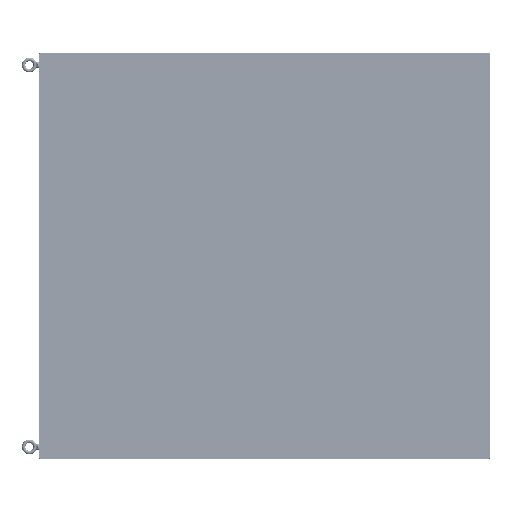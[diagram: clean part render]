
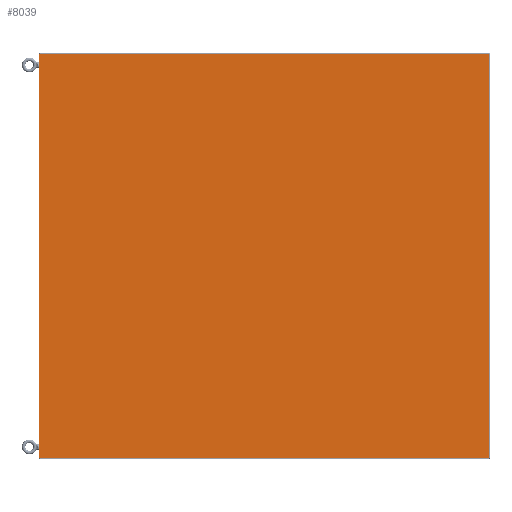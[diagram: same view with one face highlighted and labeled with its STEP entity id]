
A CAD part, front view. The second image highlights one B-rep face of the part: STEP entity #8039.
In plain terms, the highlighted planar face has unit normal (0, -1, 0).
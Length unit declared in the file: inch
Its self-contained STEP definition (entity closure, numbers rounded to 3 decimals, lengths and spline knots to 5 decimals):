
#7808=CARTESIAN_POINT('',(-39.251,0.,-35.314));
#7809=DIRECTION('',(0.,-1.,0.));
#7810=DIRECTION('',(-1.,0.,0.));
#7811=AXIS2_PLACEMENT_3D('',#7808,#7809,#7810);
#7816=DIRECTION('',(0.,0.,-1.));
#7817=VECTOR('',#7816,70.628);
#7818=CARTESIAN_POINT('',(-39.266,0.,35.314));
#7819=LINE('',#7818,#7817);
#7823=CARTESIAN_POINT('',(-39.251,0.,35.314));
#7824=DIRECTION('',(0.,-1.,0.));
#7825=DIRECTION('',(0.,0.,1.));
#7826=AXIS2_PLACEMENT_3D('',#7823,#7824,#7825);
#7831=CARTESIAN_POINT('',(39.251,0.,35.314));
#7832=DIRECTION('',(0.,-1.,0.));
#7833=DIRECTION('',(1.,0.,0.));
#7834=AXIS2_PLACEMENT_3D('',#7831,#7832,#7833);
#7839=CARTESIAN_POINT('',(39.251,0.,-35.314));
#7840=DIRECTION('',(0.,-1.,0.));
#7841=DIRECTION('',(0.,0.,-1.));
#7842=AXIS2_PLACEMENT_3D('',#7839,#7840,#7841);
#7854=DIRECTION('',(1.,0.,0.));
#7855=VECTOR('',#7854,78.502);
#7856=CARTESIAN_POINT('',(-39.251,0.,-35.329));
#7857=LINE('',#7856,#7855);
#7896=DIRECTION('',(0.,0.,-1.));
#7897=VECTOR('',#7896,70.628);
#7898=CARTESIAN_POINT('',(39.266,0.,35.314));
#7899=LINE('',#7898,#7897);
#7924=DIRECTION('',(1.,0.,0.));
#7925=VECTOR('',#7924,78.502);
#7926=CARTESIAN_POINT('',(-39.251,0.,35.329));
#7927=LINE('',#7926,#7925);
#7984=CARTESIAN_POINT('',(-39.266,0.,-35.314));
#7985=CARTESIAN_POINT('',(-39.251,0.,-35.329));
#7986=VERTEX_POINT('',#7984);
#7987=VERTEX_POINT('',#7985);
#7992=CARTESIAN_POINT('',(-39.251,0.,35.329));
#7993=CARTESIAN_POINT('',(-39.266,0.,35.314));
#7994=VERTEX_POINT('',#7992);
#7995=VERTEX_POINT('',#7993);
#8000=CARTESIAN_POINT('',(39.266,0.,35.314));
#8001=CARTESIAN_POINT('',(39.251,0.,35.329));
#8002=VERTEX_POINT('',#8000);
#8003=VERTEX_POINT('',#8001);
#8008=CARTESIAN_POINT('',(39.251,0.,-35.329));
#8009=CARTESIAN_POINT('',(39.266,0.,-35.314));
#8010=VERTEX_POINT('',#8008);
#8011=VERTEX_POINT('',#8009);
#8016=CARTESIAN_POINT('',(-39.266,0.,35.329));
#8017=DIRECTION('',(0.,-1.,0.));
#8018=DIRECTION('',(1.,0.,0.));
#8019=AXIS2_PLACEMENT_3D('',#8016,#8017,#8018);
#8020=PLANE('',#8019);
#8022=ORIENTED_EDGE('',*,*,#8021,.F.);
#8024=ORIENTED_EDGE('',*,*,#8023,.F.);
#8026=ORIENTED_EDGE('',*,*,#8025,.F.);
#8028=ORIENTED_EDGE('',*,*,#8027,.T.);
#8030=ORIENTED_EDGE('',*,*,#8029,.F.);
#8032=ORIENTED_EDGE('',*,*,#8031,.T.);
#8034=ORIENTED_EDGE('',*,*,#8033,.F.);
#8036=ORIENTED_EDGE('',*,*,#8035,.F.);
#8037=EDGE_LOOP('',(#8022,#8024,#8026,#8028,#8030,#8032,#8034,#8036));
#8038=FACE_OUTER_BOUND('',#8037,.F.);
#7812=CIRCLE('',#7811,0.015);
#7827=CIRCLE('',#7826,0.015);
#7835=CIRCLE('',#7834,0.015);
#7843=CIRCLE('',#7842,0.015);
#8021=EDGE_CURVE('',#7986,#7987,#7812,.T.);
#8023=EDGE_CURVE('',#7995,#7986,#7819,.T.);
#8025=EDGE_CURVE('',#7994,#7995,#7827,.T.);
#8027=EDGE_CURVE('',#7994,#8003,#7927,.T.);
#8029=EDGE_CURVE('',#8002,#8003,#7835,.T.);
#8031=EDGE_CURVE('',#8002,#8011,#7899,.T.);
#8033=EDGE_CURVE('',#8010,#8011,#7843,.T.);
#8035=EDGE_CURVE('',#7987,#8010,#7857,.T.);
#8039=ADVANCED_FACE('',(#8038),#8020,.T.);
